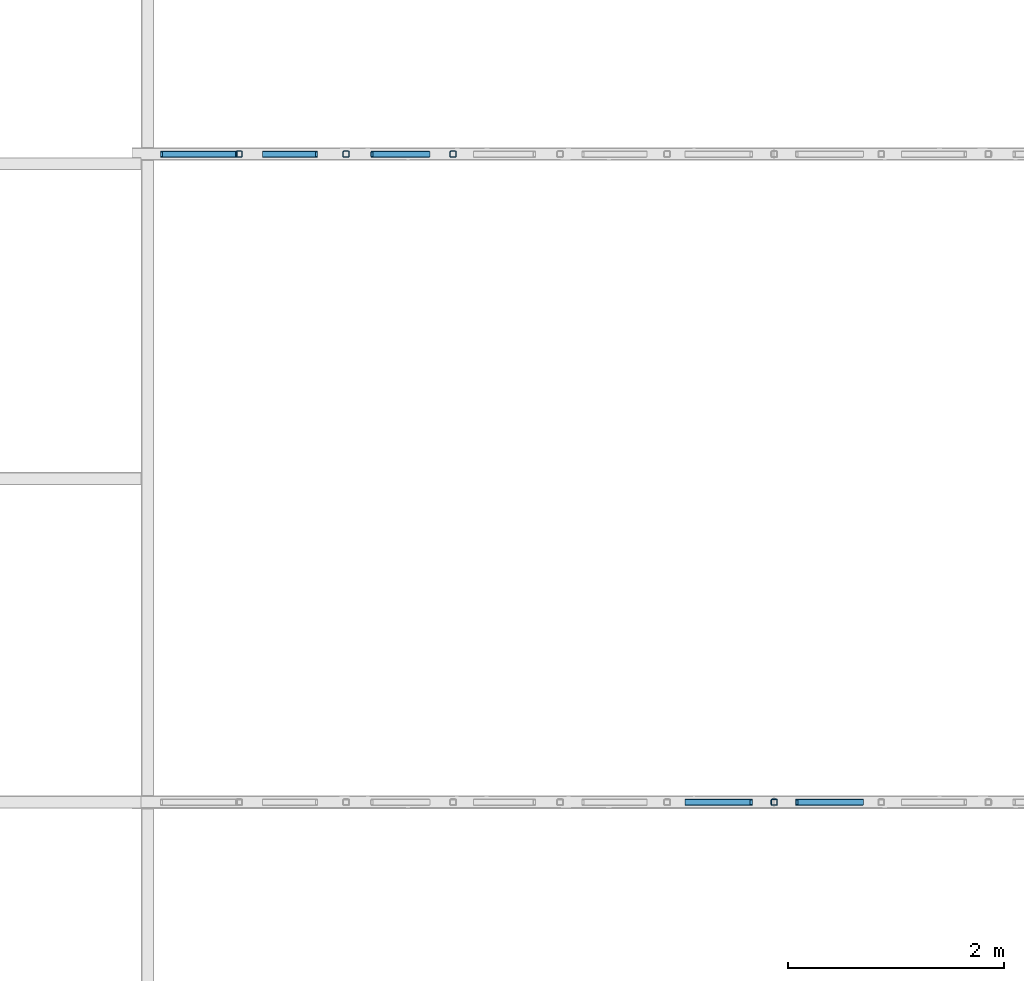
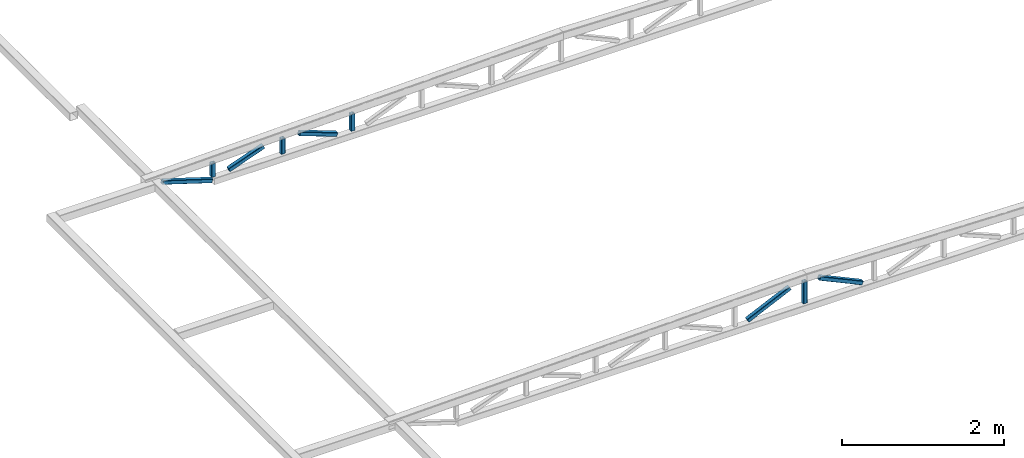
# One storey, part 7 of 10: 9 members, 2 elements without a shape of their own.
"""IFC2X3 building model written with IfcOpenShell, lengths in millimetres."""

from ifc_helpers import new_model, entity, si_unit, converted_unit, derived_unit, direction, frame, frame_2d, origin, place, context, subcontext, project, spatial, polyline, circle_curve, parameter, trimmed, segment, composite_curve, outline, extrude, source, transform, mapped, type_object, type_shapes, element, aggregate, save


model = new_model("IFC2X3")

# Units and contexts
model_context = context("Model", 3, precision=0.01, world=origin(), true_north=direction((6.12303176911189e-17, 1.0)))
body_context = subcontext(model_context, "Body", "Model", "MODEL_VIEW")
ifc_project = project(units=[si_unit("LENGTHUNIT", "METRE", prefix="MILLI"), si_unit("AREAUNIT", "SQUARE_METRE"), si_unit("VOLUMEUNIT", "CUBIC_METRE"), converted_unit("PLANEANGLEUNIT", "DEGREE", entity("IfcRatioMeasure", 0.0174532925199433), si_unit("PLANEANGLEUNIT", "RADIAN"), dimensions=[0, 0, 0, 0, 0, 0, 0]), si_unit("MASSUNIT", "GRAM", prefix="KILO"), derived_unit("MASSDENSITYUNIT", [(si_unit("MASSUNIT", "GRAM", prefix="KILO"), 1), (si_unit("LENGTHUNIT", "METRE"), -3)]), si_unit("TIMEUNIT", "SECOND"), si_unit("FREQUENCYUNIT", "HERTZ"), si_unit("THERMODYNAMICTEMPERATUREUNIT", "DEGREE_CELSIUS"), derived_unit("THERMALTRANSMITTANCEUNIT", [(si_unit("MASSUNIT", "GRAM", prefix="KILO"), 1), (si_unit("THERMODYNAMICTEMPERATUREUNIT", "KELVIN"), -1), (si_unit("TIMEUNIT", "SECOND"), -3)]), derived_unit("VOLUMETRICFLOWRATEUNIT", [(si_unit("LENGTHUNIT", "METRE"), 3), (si_unit("TIMEUNIT", "SECOND"), -1)]), si_unit("ELECTRICCURRENTUNIT", "AMPERE"), si_unit("ELECTRICVOLTAGEUNIT", "VOLT"), si_unit("POWERUNIT", "WATT"), si_unit("FORCEUNIT", "NEWTON", prefix="KILO"), si_unit("ILLUMINANCEUNIT", "LUX"), si_unit("LUMINOUSFLUXUNIT", "LUMEN"), si_unit("LUMINOUSINTENSITYUNIT", "CANDELA"), derived_unit("USERDEFINED", [(si_unit("MASSUNIT", "GRAM", prefix="KILO"), -1), (si_unit("LENGTHUNIT", "METRE"), -2), (si_unit("TIMEUNIT", "SECOND"), 3), (si_unit("LUMINOUSFLUXUNIT", "LUMEN"), 1)]), derived_unit("LINEARVELOCITYUNIT", [(si_unit("LENGTHUNIT", "METRE"), 1), (si_unit("TIMEUNIT", "SECOND"), -1)]), si_unit("PRESSUREUNIT", "PASCAL"), derived_unit("USERDEFINED", [(si_unit("LENGTHUNIT", "METRE"), -2), (si_unit("MASSUNIT", "GRAM", prefix="KILO"), 1), (si_unit("TIMEUNIT", "SECOND"), -2)])], contexts=[model_context])

# Site, building, storey
site_placement = place(None, frame((0.0, 0.0, 101000.0)))
site = spatial("IfcSite", under=ifc_project, at=site_placement, Name="Default", CompositionType="ELEMENT")
building_placement = place(site_placement, origin())
building = spatial("IfcBuilding", under=site, at=building_placement, CompositionType="ELEMENT")
storey_placement = place(building_placement, frame((0.0, 0.0, 6025.0)))
storey = spatial("IfcBuildingStorey", under=building, at=storey_placement, Name="03", CompositionType="ELEMENT", Elevation=6024.9999999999)

# Assembly, member
assembly_1_placement = place(storey_placement, origin())
assembly_1 = element("IfcElementAssembly", 1, at=assembly_1_placement, inside=storey, Name="Gitterdrager:Standard", ObjectType="Gitterdrager:Standard", AssemblyPlace="NOTDEFINED", PredefinedType="TRUSS")
member_type_1 = type_object("IfcMemberType", Name="60x60x5", PredefinedType="BRACE")
shared_shape_1 = source(origin(), body_context, "Body", "SweptSolid", [
    extrude(outline(composite_curve([segment(trimmed(circle_curve(frame_2d((-20.0, -20.0), x_axis=(1.0, 0.0)), 10.0), [parameter(180.0)], [parameter(270.0)], True, "PARAMETER"), True, "CONTINUOUS"), segment(polyline([(-20.0, -30.0), (20.0, -30.0)]), True, "CONTINUOUS"), segment(trimmed(circle_curve(frame_2d((20.0, -20.0), x_axis=(1.0, 0.0)), 10.0), [parameter(270.0)], [parameter(5.08888749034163e-14)], True, "PARAMETER"), True, "CONTINUOUS"), segment(polyline([(30.0, -20.0), (30.0, 20.0)]), True, "CONTINUOUS"), segment(trimmed(circle_curve(frame_2d((20.0, 20.0), x_axis=(1.0, 0.0)), 10.0), [parameter(360.0)], [parameter(89.9999999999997)], True, "PARAMETER"), True, "CONTINUOUS"), segment(polyline([(20.0, 30.0), (-20.0, 30.0)]), True, "CONTINUOUS"), segment(trimmed(circle_curve(frame_2d((-20.0, 20.0), x_axis=(1.0, 0.0)), 10.0), [parameter(90.0000000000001)], [parameter(180.0)], True, "PARAMETER"), True, "CONTINUOUS"), segment(polyline([(-30.0, 20.0), (-30.0, -20.0)]), True, "CONTINUOUS")], self_intersect=False), holes=[composite_curve([segment(polyline([(20.0, -25.0), (-20.0, -25.0)]), True, "CONTINUOUS"), segment(trimmed(circle_curve(frame_2d((-20.0, -20.0), x_axis=(1.0, 0.0)), 5.0), [parameter(180.0)], [parameter(270.0)], True, "PARAMETER"), False, "CONTINUOUS"), segment(polyline([(-25.0, -20.0), (-25.0, 20.0)]), True, "CONTINUOUS"), segment(trimmed(circle_curve(frame_2d((-20.0, 20.0), x_axis=(1.0, 0.0)), 5.0), [parameter(90.0000000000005)], [parameter(180.0)], True, "PARAMETER"), False, "CONTINUOUS"), segment(polyline([(-20.0, 25.0), (20.0, 25.0)]), True, "CONTINUOUS"), segment(trimmed(circle_curve(frame_2d((20.0, 20.0), x_axis=(1.0, 0.0)), 5.0), [parameter(0.0)], [parameter(90.0000000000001)], True, "PARAMETER"), False, "CONTINUOUS"), segment(polyline([(25.0, 20.0), (25.0, -20.0)]), True, "CONTINUOUS"), segment(trimmed(circle_curve(frame_2d((20.0, -20.0), x_axis=(1.0, 0.0)), 5.0), [parameter(270.0)], [parameter(4.57999874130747e-13)], True, "PARAMETER"), False, "CONTINUOUS")], self_intersect=False)]), frame((-168.190907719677, 0.0, 0.0), z_axis=(1.0, 0.0, 0.0), x_axis=(0.0, -1.0, 0.0)), (0.0, 0.0, 1.0), 324.846388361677),
])
type_shapes(member_type_1, [shared_shape_1])
member_1_placement = place(assembly_1_placement, frame((17226.2644969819, 32417.9507529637, -110.132847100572), z_axis=(1.0, 0.0, 0.0), x_axis=(0.0, 0.0, 1.0)))
member_1 = element("IfcMember", 2, at=member_1_placement, type_object=member_type_1, Name="Bjelke HUP:60x60x5", ObjectType="60x60x5", context=body_context, shape_type="MappedRepresentation", body=[
    mapped(shared_shape_1, transform((0.0, 0.0, 0.0), scale=1.0)),
])

# Assembly, members
assembly_2_placement = place(storey_placement, origin())
assembly_2 = element("IfcElementAssembly", 3, at=assembly_2_placement, inside=storey, Name="Gitterdrager:Standard", ObjectType="Gitterdrager:Standard", AssemblyPlace="NOTDEFINED", PredefinedType="TRUSS")
member_type_2 = type_object("IfcMemberType", Name="60x60x5", PredefinedType="BRACE")
shared_shape_2 = source(origin(), body_context, "Body", "SweptSolid", [
    extrude(outline(composite_curve([segment(trimmed(circle_curve(frame_2d((-20.0, -20.0), x_axis=(1.0, 0.0)), 10.0), [parameter(180.0)], [parameter(270.0)], True, "PARAMETER"), True, "CONTINUOUS"), segment(polyline([(-20.0, -30.0), (20.0, -30.0)]), True, "CONTINUOUS"), segment(trimmed(circle_curve(frame_2d((20.0, -20.0), x_axis=(1.0, 0.0)), 10.0), [parameter(270.0)], [parameter(5.08888749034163e-14)], True, "PARAMETER"), True, "CONTINUOUS"), segment(polyline([(30.0, -20.0), (30.0, 20.0)]), True, "CONTINUOUS"), segment(trimmed(circle_curve(frame_2d((20.0, 20.0), x_axis=(1.0, 0.0)), 10.0), [parameter(360.0)], [parameter(89.9999999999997)], True, "PARAMETER"), True, "CONTINUOUS"), segment(polyline([(20.0, 30.0), (-20.0, 30.0)]), True, "CONTINUOUS"), segment(trimmed(circle_curve(frame_2d((-20.0, 20.0), x_axis=(1.0, 0.0)), 10.0), [parameter(90.0000000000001)], [parameter(180.0)], True, "PARAMETER"), True, "CONTINUOUS"), segment(polyline([(-30.0, 20.0), (-30.0, -20.0)]), True, "CONTINUOUS")], self_intersect=False), holes=[composite_curve([segment(polyline([(20.0, -25.0), (-20.0, -25.0)]), True, "CONTINUOUS"), segment(trimmed(circle_curve(frame_2d((-20.0, -20.0), x_axis=(1.0, 0.0)), 5.0), [parameter(180.0)], [parameter(270.0)], True, "PARAMETER"), False, "CONTINUOUS"), segment(polyline([(-25.0, -20.0), (-25.0, 20.0)]), True, "CONTINUOUS"), segment(trimmed(circle_curve(frame_2d((-20.0, 20.0), x_axis=(1.0, 0.0)), 5.0), [parameter(90.0000000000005)], [parameter(180.0)], True, "PARAMETER"), False, "CONTINUOUS"), segment(polyline([(-20.0, 25.0), (20.0, 25.0)]), True, "CONTINUOUS"), segment(trimmed(circle_curve(frame_2d((20.0, 20.0), x_axis=(1.0, 0.0)), 5.0), [parameter(0.0)], [parameter(90.0000000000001)], True, "PARAMETER"), False, "CONTINUOUS"), segment(polyline([(25.0, 20.0), (25.0, -20.0)]), True, "CONTINUOUS"), segment(trimmed(circle_curve(frame_2d((20.0, -20.0), x_axis=(1.0, 0.0)), 5.0), [parameter(270.0)], [parameter(4.57999874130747e-13)], True, "PARAMETER"), False, "CONTINUOUS")], self_intersect=False)]), frame((-130.995453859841, 0.0, 0.0), z_axis=(1.0, 0.0, 0.0), x_axis=(0.0, -1.0, 0.0)), (0.0, 0.0, 1.0), 250.455480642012),
])
type_shapes(member_type_2, [shared_shape_2])
member_2_placement = place(assembly_2_placement, frame((14246.2644969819, 38432.1864743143, -147.328300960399), z_axis=(1.0, 0.0, 0.0), x_axis=(0.0, 0.0, 1.0)))
member_2 = element("IfcMember", 4, at=member_2_placement, type_object=member_type_2, Name="Bjelke HUP:60x60x5", ObjectType="60x60x5", context=body_context, shape_type="MappedRepresentation", body=[
    mapped(shared_shape_2, transform((0.0, 0.0, 0.0), scale=1.0)),
])
member_type_3 = type_object("IfcMemberType", Name="60x60x5", PredefinedType="BRACE")
shared_shape_3 = source(origin(), body_context, "Body", "SweptSolid", [
    extrude(outline(composite_curve([segment(trimmed(circle_curve(frame_2d((-20.0, -20.0), x_axis=(1.0, 0.0)), 10.0), [parameter(180.0)], [parameter(270.0)], True, "PARAMETER"), True, "CONTINUOUS"), segment(polyline([(-20.0, -30.0), (20.0, -30.0)]), True, "CONTINUOUS"), segment(trimmed(circle_curve(frame_2d((20.0, -20.0), x_axis=(1.0, 0.0)), 10.0), [parameter(270.0)], [parameter(5.08888749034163e-14)], True, "PARAMETER"), True, "CONTINUOUS"), segment(polyline([(30.0, -20.0), (30.0, 20.0)]), True, "CONTINUOUS"), segment(trimmed(circle_curve(frame_2d((20.0, 20.0), x_axis=(1.0, 0.0)), 10.0), [parameter(360.0)], [parameter(89.9999999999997)], True, "PARAMETER"), True, "CONTINUOUS"), segment(polyline([(20.0, 30.0), (-20.0, 30.0)]), True, "CONTINUOUS"), segment(trimmed(circle_curve(frame_2d((-20.0, 20.0), x_axis=(1.0, 0.0)), 10.0), [parameter(90.0000000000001)], [parameter(180.0)], True, "PARAMETER"), True, "CONTINUOUS"), segment(polyline([(-30.0, 20.0), (-30.0, -20.0)]), True, "CONTINUOUS")], self_intersect=False), holes=[composite_curve([segment(polyline([(20.0, -25.0), (-20.0, -25.0)]), True, "CONTINUOUS"), segment(trimmed(circle_curve(frame_2d((-20.0, -20.0), x_axis=(1.0, 0.0)), 5.0), [parameter(180.0)], [parameter(270.0)], True, "PARAMETER"), False, "CONTINUOUS"), segment(polyline([(-25.0, -20.0), (-25.0, 20.0)]), True, "CONTINUOUS"), segment(trimmed(circle_curve(frame_2d((-20.0, 20.0), x_axis=(1.0, 0.0)), 5.0), [parameter(90.0000000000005)], [parameter(180.0)], True, "PARAMETER"), False, "CONTINUOUS"), segment(polyline([(-20.0, 25.0), (20.0, 25.0)]), True, "CONTINUOUS"), segment(trimmed(circle_curve(frame_2d((20.0, 20.0), x_axis=(1.0, 0.0)), 5.0), [parameter(0.0)], [parameter(90.0000000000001)], True, "PARAMETER"), False, "CONTINUOUS"), segment(polyline([(25.0, 20.0), (25.0, -20.0)]), True, "CONTINUOUS"), segment(trimmed(circle_curve(frame_2d((20.0, -20.0), x_axis=(1.0, 0.0)), 5.0), [parameter(270.0)], [parameter(4.57999874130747e-13)], True, "PARAMETER"), False, "CONTINUOUS")], self_intersect=False)]), frame((-118.596969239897, 0.0, 0.0), z_axis=(1.0, 0.0, 0.0), x_axis=(0.0, -1.0, 0.0)), (0.0, 0.0, 1.0), 225.658511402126),
])
type_shapes(member_type_3, [shared_shape_3])
member_3_placement = place(assembly_2_placement, frame((13252.9311636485, 38432.1864743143, -159.726785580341), z_axis=(1.0, 0.0, 0.0), x_axis=(0.0, 0.0, 1.0)))
member_3 = element("IfcMember", 5, at=member_3_placement, type_object=member_type_3, Name="Bjelke HUP:60x60x5", ObjectType="60x60x5", context=body_context, shape_type="MappedRepresentation", body=[
    mapped(shared_shape_3, transform((0.0, 0.0, 0.0), scale=1.0)),
])
member_type_4 = type_object("IfcMemberType", Name="60x60x5", PredefinedType="BRACE")
shared_shape_4 = source(origin(), body_context, "Body", "SweptSolid", [
    extrude(outline(composite_curve([segment(trimmed(circle_curve(frame_2d((-20.0, -20.0), x_axis=(1.0, 0.0)), 10.0), [parameter(180.0)], [parameter(270.0)], True, "PARAMETER"), True, "CONTINUOUS"), segment(polyline([(-20.0, -30.0), (20.0, -30.0)]), True, "CONTINUOUS"), segment(trimmed(circle_curve(frame_2d((20.0, -20.0), x_axis=(1.0, 0.0)), 10.0), [parameter(270.0)], [parameter(5.08888749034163e-14)], True, "PARAMETER"), True, "CONTINUOUS"), segment(polyline([(30.0, -20.0), (30.0, 20.0)]), True, "CONTINUOUS"), segment(trimmed(circle_curve(frame_2d((20.0, 20.0), x_axis=(1.0, 0.0)), 10.0), [parameter(360.0)], [parameter(89.9999999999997)], True, "PARAMETER"), True, "CONTINUOUS"), segment(polyline([(20.0, 30.0), (-20.0, 30.0)]), True, "CONTINUOUS"), segment(trimmed(circle_curve(frame_2d((-20.0, 20.0), x_axis=(1.0, 0.0)), 10.0), [parameter(90.0000000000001)], [parameter(180.0)], True, "PARAMETER"), True, "CONTINUOUS"), segment(polyline([(-30.0, 20.0), (-30.0, -20.0)]), True, "CONTINUOUS")], self_intersect=False), holes=[composite_curve([segment(polyline([(20.0, -25.0), (-20.0, -25.0)]), True, "CONTINUOUS"), segment(trimmed(circle_curve(frame_2d((-20.0, -20.0), x_axis=(1.0, 0.0)), 5.0), [parameter(180.0)], [parameter(270.0)], True, "PARAMETER"), False, "CONTINUOUS"), segment(polyline([(-25.0, -20.0), (-25.0, 20.0)]), True, "CONTINUOUS"), segment(trimmed(circle_curve(frame_2d((-20.0, 20.0), x_axis=(1.0, 0.0)), 5.0), [parameter(90.0000000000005)], [parameter(180.0)], True, "PARAMETER"), False, "CONTINUOUS"), segment(polyline([(-20.0, 25.0), (20.0, 25.0)]), True, "CONTINUOUS"), segment(trimmed(circle_curve(frame_2d((20.0, 20.0), x_axis=(1.0, 0.0)), 5.0), [parameter(0.0)], [parameter(90.0000000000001)], True, "PARAMETER"), False, "CONTINUOUS"), segment(polyline([(25.0, 20.0), (25.0, -20.0)]), True, "CONTINUOUS"), segment(trimmed(circle_curve(frame_2d((20.0, -20.0), x_axis=(1.0, 0.0)), 5.0), [parameter(270.0)], [parameter(4.57999874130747e-13)], True, "PARAMETER"), False, "CONTINUOUS")], self_intersect=False)]), frame((-106.198484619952, 0.0, 0.0), z_axis=(1.0, 0.0, 0.0), x_axis=(0.0, -1.0, 0.0)), (0.0, 0.0, 1.0), 200.861542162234),
])
type_shapes(member_type_4, [shared_shape_4])
member_4_placement = place(assembly_2_placement, frame((12259.5978303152, 38432.1864743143, -172.12527020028), z_axis=(1.0, 0.0, 0.0), x_axis=(0.0, 0.0, 1.0)))
member_4 = element("IfcMember", 6, at=member_4_placement, type_object=member_type_4, Name="Bjelke HUP:60x60x5", ObjectType="60x60x5", context=body_context, shape_type="MappedRepresentation", body=[
    mapped(shared_shape_4, transform((0.0, 0.0, 0.0), scale=1.0)),
])

# Member
member_type_5 = type_object("IfcMemberType", Name="60x60x5", PredefinedType="BRACE")
shared_shape_5 = source(origin(), body_context, "Body", "SweptSolid", [
    extrude(outline(composite_curve([segment(trimmed(circle_curve(frame_2d((-20.0, -20.0), x_axis=(1.0, 0.0)), 10.0), [parameter(180.0)], [parameter(270.0)], True, "PARAMETER"), True, "CONTINUOUS"), segment(polyline([(-20.0, -30.0), (20.0, -30.0)]), True, "CONTINUOUS"), segment(trimmed(circle_curve(frame_2d((20.0, -20.0), x_axis=(1.0, 0.0)), 10.0), [parameter(270.0)], [parameter(5.08888749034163e-14)], True, "PARAMETER"), True, "CONTINUOUS"), segment(polyline([(30.0, -20.0), (30.0, 20.0)]), True, "CONTINUOUS"), segment(trimmed(circle_curve(frame_2d((20.0, 20.0), x_axis=(1.0, 0.0)), 10.0), [parameter(360.0)], [parameter(89.9999999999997)], True, "PARAMETER"), True, "CONTINUOUS"), segment(polyline([(20.0, 30.0), (-20.0, 30.0)]), True, "CONTINUOUS"), segment(trimmed(circle_curve(frame_2d((-20.0, 20.0), x_axis=(1.0, 0.0)), 10.0), [parameter(90.0000000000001)], [parameter(180.0)], True, "PARAMETER"), True, "CONTINUOUS"), segment(polyline([(-30.0, 20.0), (-30.0, -20.0)]), True, "CONTINUOUS")], self_intersect=False), holes=[composite_curve([segment(polyline([(20.0, -25.0), (-20.0, -25.0)]), True, "CONTINUOUS"), segment(trimmed(circle_curve(frame_2d((-20.0, -20.0), x_axis=(1.0, 0.0)), 5.0), [parameter(180.0)], [parameter(270.0)], True, "PARAMETER"), False, "CONTINUOUS"), segment(polyline([(-25.0, -20.0), (-25.0, 20.0)]), True, "CONTINUOUS"), segment(trimmed(circle_curve(frame_2d((-20.0, 20.0), x_axis=(1.0, 0.0)), 5.0), [parameter(90.0000000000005)], [parameter(180.0)], True, "PARAMETER"), False, "CONTINUOUS"), segment(polyline([(-20.0, 25.0), (20.0, 25.0)]), True, "CONTINUOUS"), segment(trimmed(circle_curve(frame_2d((20.0, 20.0), x_axis=(1.0, 0.0)), 5.0), [parameter(0.0)], [parameter(90.0000000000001)], True, "PARAMETER"), False, "CONTINUOUS"), segment(polyline([(25.0, 20.0), (25.0, -20.0)]), True, "CONTINUOUS"), segment(trimmed(circle_curve(frame_2d((20.0, -20.0), x_axis=(1.0, 0.0)), 5.0), [parameter(270.0)], [parameter(4.57999874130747e-13)], True, "PARAMETER"), False, "CONTINUOUS")], self_intersect=False)]), frame((-351.247436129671, 0.0, 0.0), z_axis=(1.0, 0.0, 0.0), x_axis=(0.0, -1.0, 0.0)), (0.0, 0.0, 1.0), 664.357457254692),
])
type_shapes(member_type_5, [shared_shape_5])
member_5_placement = place(assembly_1_placement, frame((16728.5730107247, 32417.9507529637, -110.15843007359), z_axis=(0.422233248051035, 0.0, -0.906487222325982), x_axis=(0.906487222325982, 0.0, 0.422233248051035)))
member_5 = element("IfcMember", 7, at=member_5_placement, type_object=member_type_5, Name="Bjelke HUP:60x60x5", ObjectType="60x60x5", context=body_context, shape_type="MappedRepresentation", body=[
    mapped(shared_shape_5, transform((0.0, 0.0, 0.0), scale=1.0)),
])

member_type_6 = type_object("IfcMemberType", Name="60x60x5", PredefinedType="BRACE")
shared_shape_6 = source(origin(), body_context, "Body", "SweptSolid", [
    extrude(outline(composite_curve([segment(trimmed(circle_curve(frame_2d((-20.0, -20.0), x_axis=(1.0, 0.0)), 10.0), [parameter(180.0)], [parameter(270.0)], True, "PARAMETER"), True, "CONTINUOUS"), segment(polyline([(-20.0, -30.0), (20.0, -30.0)]), True, "CONTINUOUS"), segment(trimmed(circle_curve(frame_2d((20.0, -20.0), x_axis=(1.0, 0.0)), 10.0), [parameter(270.0)], [parameter(5.08888749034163e-14)], True, "PARAMETER"), True, "CONTINUOUS"), segment(polyline([(30.0, -20.0), (30.0, 20.0)]), True, "CONTINUOUS"), segment(trimmed(circle_curve(frame_2d((20.0, 20.0), x_axis=(1.0, 0.0)), 10.0), [parameter(360.0)], [parameter(89.9999999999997)], True, "PARAMETER"), True, "CONTINUOUS"), segment(polyline([(20.0, 30.0), (-20.0, 30.0)]), True, "CONTINUOUS"), segment(trimmed(circle_curve(frame_2d((-20.0, 20.0), x_axis=(1.0, 0.0)), 10.0), [parameter(90.0000000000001)], [parameter(180.0)], True, "PARAMETER"), True, "CONTINUOUS"), segment(polyline([(-30.0, 20.0), (-30.0, -20.0)]), True, "CONTINUOUS")], self_intersect=False), holes=[composite_curve([segment(polyline([(20.0, -25.0), (-20.0, -25.0)]), True, "CONTINUOUS"), segment(trimmed(circle_curve(frame_2d((-20.0, -20.0), x_axis=(1.0, 0.0)), 5.0), [parameter(180.0)], [parameter(270.0)], True, "PARAMETER"), False, "CONTINUOUS"), segment(polyline([(-25.0, -20.0), (-25.0, 20.0)]), True, "CONTINUOUS"), segment(trimmed(circle_curve(frame_2d((-20.0, 20.0), x_axis=(1.0, 0.0)), 5.0), [parameter(90.0000000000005)], [parameter(180.0)], True, "PARAMETER"), False, "CONTINUOUS"), segment(polyline([(-20.0, 25.0), (20.0, 25.0)]), True, "CONTINUOUS"), segment(trimmed(circle_curve(frame_2d((20.0, 20.0), x_axis=(1.0, 0.0)), 5.0), [parameter(0.0)], [parameter(90.0000000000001)], True, "PARAMETER"), False, "CONTINUOUS"), segment(polyline([(25.0, 20.0), (25.0, -20.0)]), True, "CONTINUOUS"), segment(trimmed(circle_curve(frame_2d((20.0, -20.0), x_axis=(1.0, 0.0)), 5.0), [parameter(270.0)], [parameter(4.57999874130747e-13)], True, "PARAMETER"), False, "CONTINUOUS")], self_intersect=False)]), frame((-273.871385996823, 0.0, 0.0), z_axis=(1.0, 0.0, 0.0), x_axis=(0.0, -1.0, 0.0)), (0.0, 0.0, 1.0), 561.89082896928),
])
type_shapes(member_type_6, [shared_shape_6])
member_6_placement = place(assembly_2_placement, frame((13749.5978303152, 38432.1864743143, -159.726785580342), z_axis=(-0.342896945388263, 0.0, -0.939373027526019), x_axis=(0.939373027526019, 0.0, -0.342896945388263)))
member_6 = element("IfcMember", 8, at=member_6_placement, type_object=member_type_6, Name="Bjelke HUP:60x60x5", ObjectType="60x60x5", context=body_context, shape_type="MappedRepresentation", body=[
    mapped(shared_shape_6, transform((0.0, 0.0, 0.0), scale=1.0)),
])

member_type_7 = type_object("IfcMemberType", Name="60x60x5", PredefinedType="BRACE")
shared_shape_7 = source(origin(), body_context, "Body", "SweptSolid", [
    extrude(outline(composite_curve([segment(trimmed(circle_curve(frame_2d((-20.0, -20.0), x_axis=(1.0, 0.0)), 10.0), [parameter(180.0)], [parameter(270.0)], True, "PARAMETER"), True, "CONTINUOUS"), segment(polyline([(-20.0, -30.0), (20.0, -30.0)]), True, "CONTINUOUS"), segment(trimmed(circle_curve(frame_2d((20.0, -20.0), x_axis=(1.0, 0.0)), 10.0), [parameter(270.0)], [parameter(5.08888749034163e-14)], True, "PARAMETER"), True, "CONTINUOUS"), segment(polyline([(30.0, -20.0), (30.0, 20.0)]), True, "CONTINUOUS"), segment(trimmed(circle_curve(frame_2d((20.0, 20.0), x_axis=(1.0, 0.0)), 10.0), [parameter(360.0)], [parameter(89.9999999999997)], True, "PARAMETER"), True, "CONTINUOUS"), segment(polyline([(20.0, 30.0), (-20.0, 30.0)]), True, "CONTINUOUS"), segment(trimmed(circle_curve(frame_2d((-20.0, 20.0), x_axis=(1.0, 0.0)), 10.0), [parameter(90.0000000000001)], [parameter(180.0)], True, "PARAMETER"), True, "CONTINUOUS"), segment(polyline([(-30.0, 20.0), (-30.0, -20.0)]), True, "CONTINUOUS")], self_intersect=False), holes=[composite_curve([segment(polyline([(20.0, -25.0), (-20.0, -25.0)]), True, "CONTINUOUS"), segment(trimmed(circle_curve(frame_2d((-20.0, -20.0), x_axis=(1.0, 0.0)), 5.0), [parameter(180.0)], [parameter(270.0)], True, "PARAMETER"), False, "CONTINUOUS"), segment(polyline([(-25.0, -20.0), (-25.0, 20.0)]), True, "CONTINUOUS"), segment(trimmed(circle_curve(frame_2d((-20.0, 20.0), x_axis=(1.0, 0.0)), 5.0), [parameter(90.0000000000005)], [parameter(180.0)], True, "PARAMETER"), False, "CONTINUOUS"), segment(polyline([(-20.0, 25.0), (20.0, 25.0)]), True, "CONTINUOUS"), segment(trimmed(circle_curve(frame_2d((20.0, 20.0), x_axis=(1.0, 0.0)), 5.0), [parameter(0.0)], [parameter(90.0000000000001)], True, "PARAMETER"), False, "CONTINUOUS"), segment(polyline([(25.0, 20.0), (25.0, -20.0)]), True, "CONTINUOUS"), segment(trimmed(circle_curve(frame_2d((20.0, -20.0), x_axis=(1.0, 0.0)), 5.0), [parameter(270.0)], [parameter(4.57999874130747e-13)], True, "PARAMETER"), False, "CONTINUOUS")], self_intersect=False)]), frame((-314.375226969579, 0.0, 0.0), z_axis=(1.0, 0.0, 0.0), x_axis=(0.0, -1.0, 0.0)), (0.0, 0.0, 1.0), 666.812434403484),
])
type_shapes(member_type_7, [shared_shape_7])
member_7_placement = place(assembly_1_placement, frame((17721.906344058, 32417.9507529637, -110.158430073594), z_axis=(-0.420802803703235, 0.0, -0.907152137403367), x_axis=(0.907152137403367, 0.0, -0.420802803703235)))
member_7 = element("IfcMember", 9, at=member_7_placement, type_object=member_type_7, Name="Bjelke HUP:60x60x5", ObjectType="60x60x5", context=body_context, shape_type="MappedRepresentation", body=[
    mapped(shared_shape_7, transform((0.0, 0.0, 0.0), scale=1.0)),
])

aggregate(assembly_1, [member_1, member_5, member_7])

member_type_8 = type_object("IfcMemberType", Name="60x60x5", PredefinedType="BRACE")
shared_shape_8 = source(origin(), body_context, "Body", "SweptSolid", [
    extrude(outline(composite_curve([segment(trimmed(circle_curve(frame_2d((-20.0, -20.0), x_axis=(1.0, 0.0)), 10.0), [parameter(180.0)], [parameter(270.0)], True, "PARAMETER"), True, "CONTINUOUS"), segment(polyline([(-20.0, -30.0), (20.0, -30.0)]), True, "CONTINUOUS"), segment(trimmed(circle_curve(frame_2d((20.0, -20.0), x_axis=(1.0, 0.0)), 10.0), [parameter(270.0)], [parameter(5.08888749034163e-14)], True, "PARAMETER"), True, "CONTINUOUS"), segment(polyline([(30.0, -20.0), (30.0, 20.0)]), True, "CONTINUOUS"), segment(trimmed(circle_curve(frame_2d((20.0, 20.0), x_axis=(1.0, 0.0)), 10.0), [parameter(360.0)], [parameter(89.9999999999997)], True, "PARAMETER"), True, "CONTINUOUS"), segment(polyline([(20.0, 30.0), (-20.0, 30.0)]), True, "CONTINUOUS"), segment(trimmed(circle_curve(frame_2d((-20.0, 20.0), x_axis=(1.0, 0.0)), 10.0), [parameter(90.0000000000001)], [parameter(180.0)], True, "PARAMETER"), True, "CONTINUOUS"), segment(polyline([(-30.0, 20.0), (-30.0, -20.0)]), True, "CONTINUOUS")], self_intersect=False), holes=[composite_curve([segment(polyline([(20.0, -25.0), (-20.0, -25.0)]), True, "CONTINUOUS"), segment(trimmed(circle_curve(frame_2d((-20.0, -20.0), x_axis=(1.0, 0.0)), 5.0), [parameter(180.0)], [parameter(270.0)], True, "PARAMETER"), False, "CONTINUOUS"), segment(polyline([(-25.0, -20.0), (-25.0, 20.0)]), True, "CONTINUOUS"), segment(trimmed(circle_curve(frame_2d((-20.0, 20.0), x_axis=(1.0, 0.0)), 5.0), [parameter(90.0000000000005)], [parameter(180.0)], True, "PARAMETER"), False, "CONTINUOUS"), segment(polyline([(-20.0, 25.0), (20.0, 25.0)]), True, "CONTINUOUS"), segment(trimmed(circle_curve(frame_2d((20.0, 20.0), x_axis=(1.0, 0.0)), 5.0), [parameter(0.0)], [parameter(90.0000000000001)], True, "PARAMETER"), False, "CONTINUOUS"), segment(polyline([(25.0, 20.0), (25.0, -20.0)]), True, "CONTINUOUS"), segment(trimmed(circle_curve(frame_2d((20.0, -20.0), x_axis=(1.0, 0.0)), 5.0), [parameter(270.0)], [parameter(4.57999874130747e-13)], True, "PARAMETER"), False, "CONTINUOUS")], self_intersect=False)]), frame((-288.01944297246, 0.0, 0.0), z_axis=(1.0, 0.0, 0.0), x_axis=(0.0, -1.0, 0.0)), (0.0, 0.0, 1.0), 524.731615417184),
])
type_shapes(member_type_8, [shared_shape_8])
member_8_placement = place(assembly_2_placement, frame((12756.2644969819, 38432.1864743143, -159.726785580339), z_axis=(0.342896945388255, 0.0, -0.939373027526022), x_axis=(0.939373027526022, 0.0, 0.342896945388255)))
member_8 = element("IfcMember", 10, at=member_8_placement, type_object=member_type_8, Name="Bjelke HUP:60x60x5", ObjectType="60x60x5", context=body_context, shape_type="MappedRepresentation", body=[
    mapped(shared_shape_8, transform((0.0, 0.0, 0.0), scale=1.0)),
])

member_type_9 = type_object("IfcMemberType", Name="60x60x5", PredefinedType="BRACE")
shared_shape_9 = source(origin(), body_context, "Body", "SweptSolid", [
    extrude(outline(composite_curve([segment(trimmed(circle_curve(frame_2d((-20.0, -20.0), x_axis=(1.0, 0.0)), 10.0), [parameter(180.0)], [parameter(270.0)], True, "PARAMETER"), True, "CONTINUOUS"), segment(polyline([(-20.0, -30.0), (20.0, -30.0)]), True, "CONTINUOUS"), segment(trimmed(circle_curve(frame_2d((20.0, -20.0), x_axis=(1.0, 0.0)), 10.0), [parameter(270.0)], [parameter(5.08888749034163e-14)], True, "PARAMETER"), True, "CONTINUOUS"), segment(polyline([(30.0, -20.0), (30.0, 20.0)]), True, "CONTINUOUS"), segment(trimmed(circle_curve(frame_2d((20.0, 20.0), x_axis=(1.0, 0.0)), 10.0), [parameter(360.0)], [parameter(89.9999999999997)], True, "PARAMETER"), True, "CONTINUOUS"), segment(polyline([(20.0, 30.0), (-20.0, 30.0)]), True, "CONTINUOUS"), segment(trimmed(circle_curve(frame_2d((-20.0, 20.0), x_axis=(1.0, 0.0)), 10.0), [parameter(90.0000000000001)], [parameter(180.0)], True, "PARAMETER"), True, "CONTINUOUS"), segment(polyline([(-30.0, 20.0), (-30.0, -20.0)]), True, "CONTINUOUS")], self_intersect=False), holes=[composite_curve([segment(polyline([(20.0, -25.0), (-20.0, -25.0)]), True, "CONTINUOUS"), segment(trimmed(circle_curve(frame_2d((-20.0, -20.0), x_axis=(1.0, 0.0)), 5.0), [parameter(180.0)], [parameter(270.0)], True, "PARAMETER"), False, "CONTINUOUS"), segment(polyline([(-25.0, -20.0), (-25.0, 20.0)]), True, "CONTINUOUS"), segment(trimmed(circle_curve(frame_2d((-20.0, 20.0), x_axis=(1.0, 0.0)), 5.0), [parameter(90.0000000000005)], [parameter(180.0)], True, "PARAMETER"), False, "CONTINUOUS"), segment(polyline([(-20.0, 25.0), (20.0, 25.0)]), True, "CONTINUOUS"), segment(trimmed(circle_curve(frame_2d((20.0, 20.0), x_axis=(1.0, 0.0)), 5.0), [parameter(0.0)], [parameter(90.0000000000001)], True, "PARAMETER"), False, "CONTINUOUS"), segment(polyline([(25.0, 20.0), (25.0, -20.0)]), True, "CONTINUOUS"), segment(trimmed(circle_curve(frame_2d((20.0, -20.0), x_axis=(1.0, 0.0)), 5.0), [parameter(270.0)], [parameter(4.57999874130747e-13)], True, "PARAMETER"), False, "CONTINUOUS")], self_intersect=False)]), frame((-233.100976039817, 0.0, 0.0), z_axis=(1.0, 0.0, 0.0), x_axis=(0.0, -1.0, 0.0)), (0.0, 0.0, 1.0), 731.687840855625),
])
type_shapes(member_type_9, [shared_shape_9])
member_9_placement = place(assembly_2_placement, frame((11762.9311636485, 38432.1864743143, -184.523754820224), z_axis=(-0.300533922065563, 0.0, -0.95377112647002), x_axis=(0.95377112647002, 0.0, -0.300533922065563)))
member_9 = element("IfcMember", 11, at=member_9_placement, type_object=member_type_9, Name="Bjelke HUP:60x60x5", ObjectType="60x60x5", context=body_context, shape_type="MappedRepresentation", body=[
    mapped(shared_shape_9, transform((0.0, 0.0, 0.0), scale=1.0)),
])

aggregate(assembly_2, [member_2, member_3, member_4, member_6, member_8, member_9])

save(model, "model.ifc")
